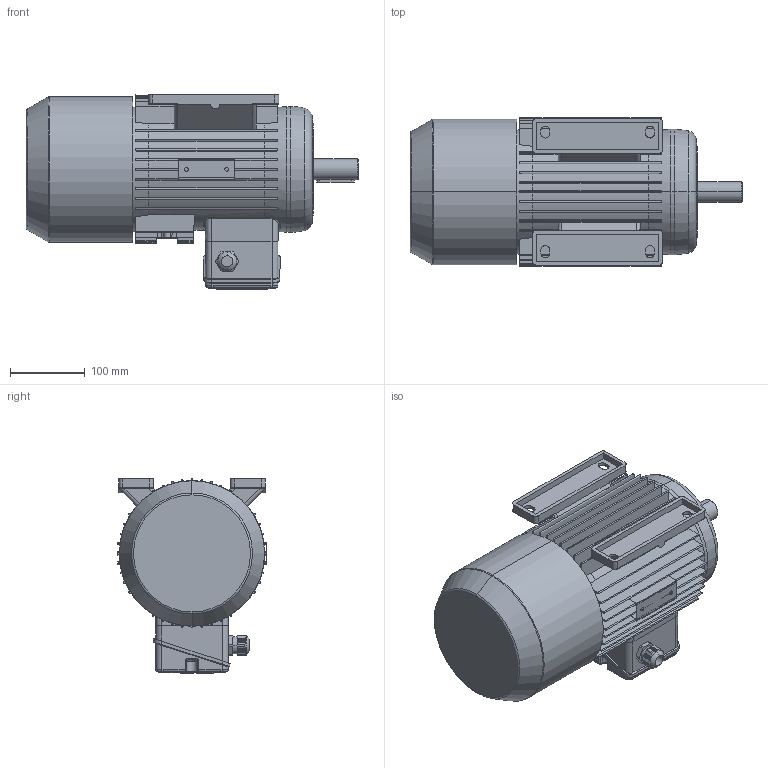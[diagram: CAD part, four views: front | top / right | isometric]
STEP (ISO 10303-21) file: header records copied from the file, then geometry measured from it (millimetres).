
FILE_DESCRIPTION (( 'STEP AP214' ), '1' );
FILE_NAME ('MAP100L6A IM1041.STEP', '2021-04-28T08:25:05', ( '' ), ( '' ), 'SwSTEP 2.0', 'SolidWorks 2018', '' );
FILE_SCHEMA (( 'AUTOMOTIVE_DESIGN' ));
Length unit declared in the file: millimetre
Products named in the file (1): MAP100L6A IM1041
Bounding box: 444 x 200 x 260.5 mm (x, y, z)
Volume: 10535704.6 mm3; surface area: 588789.8 mm2
Topology: 2 solids, 8 shells, 1152 faces, 3131 edges, 2023 vertices
Faces by surface type: plane 672, cylinder 276, bspline 93, torus 69, cone 38, sphere 4
Entity records: 41621 total; most frequent: CARTESIAN_POINT 13966, ORIENTED_EDGE 6250, DIRECTION 5167, EDGE_CURVE 3125, VERTEX_POINT 2023, AXIS2_PLACEMENT_3D 1724, LINE 1719, VECTOR 1719
